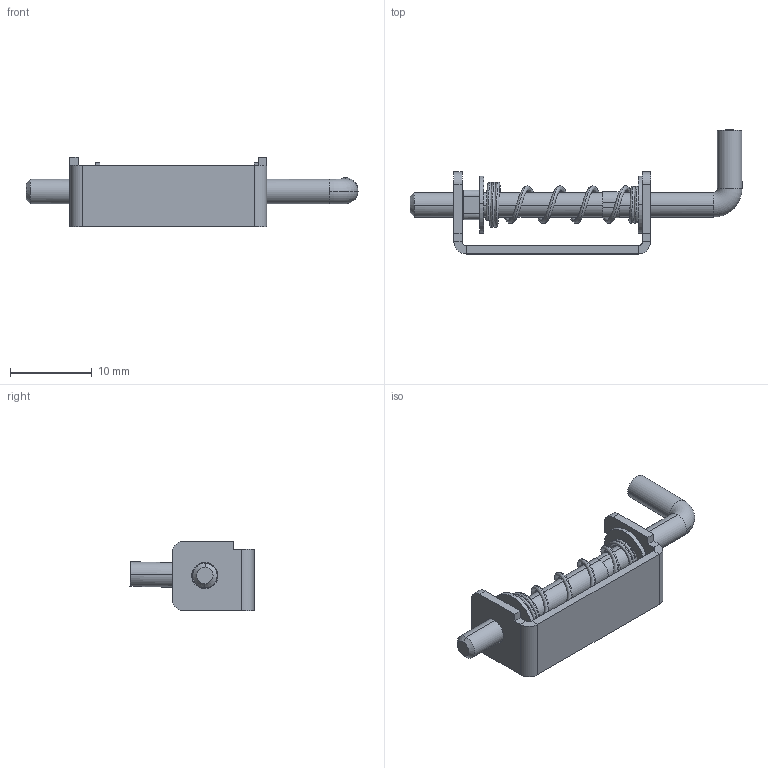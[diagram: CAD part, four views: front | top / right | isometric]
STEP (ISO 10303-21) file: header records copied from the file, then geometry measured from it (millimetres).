
FILE_DESCRIPTION (( 'STEP AP214' ), '1' );
FILE_NAME ('3.ST60.002.STEP', '2010-04-20T18:22:45', ( 'Techniczny' ), ( 'RST ROZTOCZE' ), 'SwSTEP 2.0', 'SolidWorks 2010', '' );
FILE_SCHEMA (( 'AUTOMOTIVE_DESIGN' ));
Length unit declared in the file: millimetre
Products named in the file (5): Sprê¿ynka; Podk³adka_Default; 3.St60.001.03_Default; 3.St60.001.01_Default; 3.ST60.002
Assembly tree (5 placements, depth 2):
  3.ST60.002
    3.St60.001.03_Default
    Sprê¿ynka
    Podk³adka_Default  x2
    3.St60.001.01_Default
Bounding box: 40.5 x 15.13 x 8.5 mm (x, y, z)
Volume: 685.6 mm3; surface area: 1555.2 mm2
Topology: 6 solids, 6 shells, 102 faces, 239 edges, 147 vertices
Faces by surface type: plane 54, cylinder 34, bspline 10, cone 2, torus 2
Entity records: 5316 total; most frequent: CARTESIAN_POINT 2872, DIRECTION 515, ORIENTED_EDGE 454, EDGE_CURVE 227, AXIS2_PLACEMENT_3D 209, VERTEX_POINT 139, CIRCLE 115, EDGE_LOOP 100
